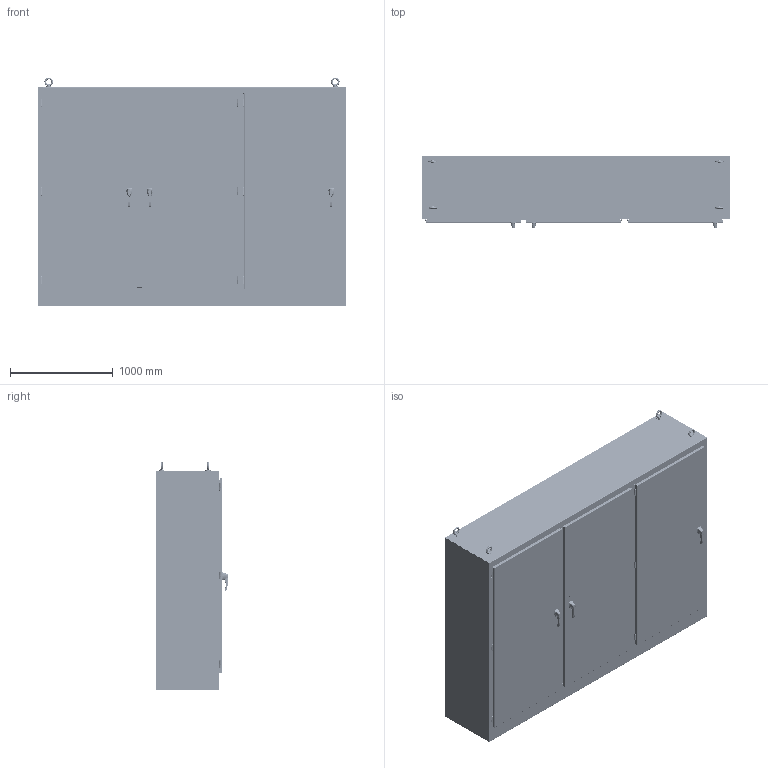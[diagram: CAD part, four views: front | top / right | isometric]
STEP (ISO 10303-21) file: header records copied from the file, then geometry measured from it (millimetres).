
FILE_DESCRIPTION(/* description */ ('Unknown'),/* implementation_level */ '2;1');
FILE_NAME(/* name */ '3UHD8411924N4SS',/* time_stamp */ '2018-12-07T15:50:36-05:00',/* author */ ('Unknown'),/* organization */ ('Unknown'),/* preprocessor_version */ 'ST-DEVELOPER v16.7',/* originating_system */ 'DEX',/* authorisation */ $);
FILE_SCHEMA (('AUTOMOTIVE_DESIGN {1 0 10303 214 3 1 1}'));
Products named in the file (130): 3UHD8411924N4SS; COM70897-7; COM70902; COM70891-3; COM70890-3; COM70883-2; COM70885-4; COM70900-6; COM70884-6; SPC20246; COM70903; STD26090; BSH01658; WAF25030; SCS19383; NTS16526; COM50493; COM70900-2; COM70875-2; COM70872-2; COM70874-2; COM70873-2; COM70904; COM70876-3; COM70877-3; STD26258; STD26122; HNG14568; HNG14568B; COM50504; SCC180005; HAN13068; HAN13068_SCREW; HAN13068_NUT; HAN_NUT; HAN86075; HAN86075_SCREW; HAN86075_NUT; GRM11006; COM50502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
Assembly tree (337 placements, depth 4):
  3UHD8411924N4SS
    COM70897-7  x2
    COM70902  x4
    COM70891-3
    COM70890-3
    COM70883-2  x2
    COM70885-4
    COM70900-6  x3
    COM70884-6
    SPC20246
    COM70903
      COM70903
      STD26090  x2
    BSH01658  x3
    WAF25030  x2
    SCS19383  x4
    NTS16526  x5
    COM50493
    COM70900-2
    COM70875-2
    COM70872-2
      STD26090  x2
      COM70874-2
      COM70873-2
      COM70904  x2
    COM70876-3
      COM70877-3
      STD26258
      STD26122  x2
      HNG14568  x3
      HNG14568B  x3
    COM50504
    SCC180005  x7
    HAN13068  x2
      HAN13068
      HAN13068_SCREW
      HAN13068_NUT
      HAN_NUT
    HAN86075
      HAN86075
      HAN86075_SCREW
      HAN86075_NUT
      HAN_NUT
    GRM11006
    COM50502
    COM70878-4
      COM70880-4
      STD26258
      STD26122  x2
      STD26202  x4
      HNG14568  x3
      HNG14568B  x3
    NTS17050  x2
    COM50492
    NTS16697  x13
    COM52453
    COM70901  x2
    COM70905-2
      COM70905-2
      STD87135
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Bounding box: 3003.55 x 697.6 x 2230 mm (x, y, z)
Volume: 74466198.6 mm3; surface area: 58430046.2 mm2
Topology: 320 solids, 323 shells, 10318 faces, 25721 edges, 16985 vertices
Faces by surface type: plane 7528, cylinder 1398, bspline 1003, cone 206, torus 124, sphere 59
Full cylindrical faces by diameter (mm): 3.68 x2, 3.967 x6, 4.249 x3, 4.394 x3, 4.75 x5, 4.775 x2, 4.801 x2, 4.826 x4, 4.928 x1, 4.976 x20, 4.978 x3, 5.105 x6, 5.461 x4, 5.537 x8, 5.563 x2, 5.893 x3, 5.918 x3, 6.248 x13, 6.325 x1, 6.35 x48, 6.477 x4, 6.528 x12, 6.731 x1, 6.756 x7, 6.985 x2, 7.112 x12, 7.137 x16, 7.163 x2, 7.366 x2, 7.442 x6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
Entity records: 246612 total; most frequent: CARTESIAN_POINT 99149, ORIENTED_EDGE 32418, DIRECTION 22940, EDGE_CURVE 16209, VERTEX_POINT 10890, EDGE_LOOP 7781, FACE_BOUND 7781, AXIS2_PLACEMENT_3D 7667
